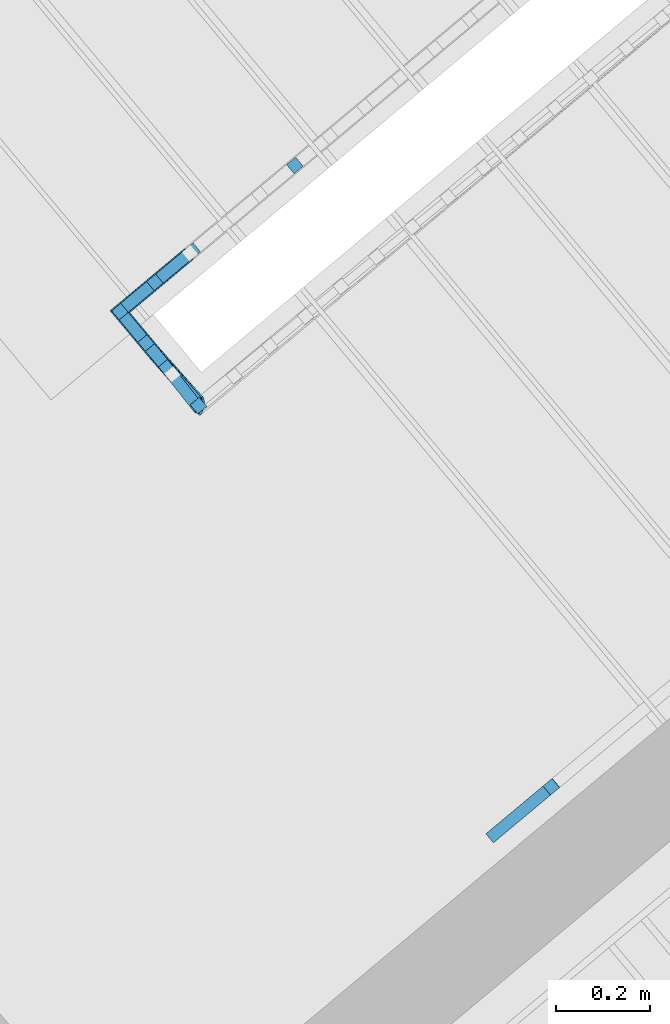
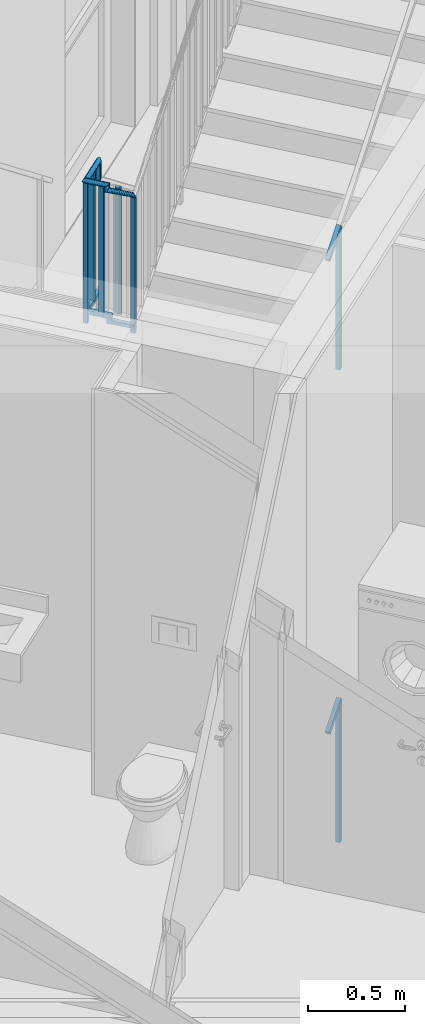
# One storey, part 41 of 53: 15 building element parts, 3 elements without a shape of their own.
"""IFC4 building model written with IfcOpenShell, lengths in metres."""

from ifc_helpers import new_model, entity, si_unit, converted_unit, derived_unit, direction, frame, origin_with_axes, place, context, subcontext, project, spatial, polygons, material, type_object, element, aggregate, save


model = new_model("IFC4")

# Units and contexts
model_context = context("Model", 3, precision=1e-05, world=origin_with_axes(), true_north=direction((0.0, 1.0)))
body_context = subcontext(model_context, "Body", "Model", "MODEL_VIEW")
ifc_project = project(units=[si_unit("LENGTHUNIT", "METRE"), si_unit("AREAUNIT", "SQUARE_METRE"), si_unit("VOLUMEUNIT", "CUBIC_METRE"), converted_unit("PLANEANGLEUNIT", "DEGREE", entity("IfcPlaneAngleMeasure", 0.0174532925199), si_unit("PLANEANGLEUNIT", "RADIAN"), dimensions=[0, 0, 0, 0, 0, 0, 0]), converted_unit("TIMEUNIT", "Year", entity("IfcTimeMeasure", 31556926.0), si_unit("TIMEUNIT", "SECOND"), dimensions=[0, 0, 1, 0, 0, 0, 0]), si_unit("MASSUNIT", "GRAM", prefix="KILO"), si_unit("THERMODYNAMICTEMPERATUREUNIT", "DEGREE_CELSIUS"), si_unit("LUMINOUSINTENSITYUNIT", "LUMEN"), si_unit("ENERGYUNIT", "JOULE", prefix="MEGA"), derived_unit("THERMALCONDUCTANCEUNIT", [(si_unit("POWERUNIT", "WATT"), 1), (si_unit("LENGTHUNIT", "METRE"), -1), (si_unit("THERMODYNAMICTEMPERATUREUNIT", "KELVIN"), -1)]), derived_unit("SPECIFICHEATCAPACITYUNIT", [(si_unit("ENERGYUNIT", "JOULE"), 1), (si_unit("MASSUNIT", "GRAM", prefix="KILO"), -1), (si_unit("THERMODYNAMICTEMPERATUREUNIT", "KELVIN"), -1)]), derived_unit("MASSDENSITYUNIT", [(si_unit("MASSUNIT", "GRAM", prefix="KILO"), 1), (si_unit("VOLUMEUNIT", "CUBIC_METRE"), -1)])], contexts=[model_context])

# Site, building, storey, space
site_placement = place(None, frame((-0.00153261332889, -0.00661245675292, 0.0), z_axis=(0.0, 0.0, 1.0), x_axis=(1.0, 0.0, 0.0)))
site = spatial("IfcSite", under=ifc_project, at=site_placement, Name="Gelände", CompositionType="ELEMENT")
building_placement = place(site_placement, origin_with_axes())
building = spatial("IfcBuilding", under=site, at=building_placement, Name="Gebäude", CompositionType="ELEMENT")
storey_placement = place(building_placement, frame((0.0, 0.0, 2.74), z_axis=(0.0, 0.0, 1.0), x_axis=(1.0, 0.0, 0.0)))
storey = spatial("IfcBuildingStorey", under=building, at=storey_placement, Name="OG1", CompositionType="ELEMENT", Elevation=2.74)
space_1_placement = place(storey_placement, frame((0.186433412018, 25.8823467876, 0.22), z_axis=(0.0, 0.0, 1.0), x_axis=(-0.767365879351, -0.641209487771, 0.0)))
space_1 = spatial("IfcSpace", under=storey, at=space_1_placement, CompositionType="ELEMENT", PredefinedType="NOTDEFINED")

# Railing, building element parts
railing_type = type_object("IfcRailingType", Name="Geländerart", PredefinedType="NOTDEFINED")
railing_1_placement = place(space_1_placement, frame((4.02646190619, 2.55537097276, -1.35941176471), z_axis=(0.0, 0.0, 1.0), x_axis=(-0.767365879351, 0.641209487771, 0.0)))
railing_1 = element("IfcRailing", 1, at=railing_1_placement, inside=space_1, type_object=railing_type, Name="Geländer - 002", PredefinedType="NOTDEFINED")
ifc_material = material(Name="BEKLEIDUNG")
building_element_part_1_placement = place(railing_1_placement, origin_with_axes())
building_element_part_1 = element("IfcBuildingElementPart", 2, at=building_element_part_1_placement, material=ifc_material, Name="BEKLEIDUNG", PredefinedType="NOTDEFINED", context=body_context, shape_type="Tessellation", body=[
    polygons([(-0.0144532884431, 0.0367913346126, 0.0), (-0.0304835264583, 0.0559754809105, 0.0), (-0.0304835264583, 0.0559754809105, 0.887694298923), (-0.0144532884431, 0.0367913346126, 0.887694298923), (-0.033637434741, 0.0207610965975, 0.0), (-0.0496676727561, 0.0399452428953, 0.0), (-0.0496676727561, 0.0399452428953, 0.872305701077), (-0.033637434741, 0.0207610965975, 0.872305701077)], [[[1, 2, 3, 4]], [[1, 5, 6, 2]], [[2, 6, 7, 3]], [[4, 3, 7, 8]], [[5, 1, 4, 8]], [[6, 5, 8, 7]]], closed=True),
])
building_element_part_2_placement = place(railing_1_placement, origin_with_axes())
building_element_part_2 = element("IfcBuildingElementPart", 3, at=building_element_part_2_placement, material=ifc_material, Name="BEKLEIDUNG", PredefinedType="NOTDEFINED", context=body_context, shape_type="Tessellation", body=[
    polygons([(-0.0400755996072, 0.0479603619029, 0.9), (-0.0300193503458, 0.0563633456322, 0.878710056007), (-0.160716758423, -0.0528471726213, 0.773870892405), (-0.170773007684, -0.0612501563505, 0.795160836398), (-0.024045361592, 0.0287762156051, 0.9), (-0.0139891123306, 0.0371791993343, 0.878710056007), (-0.144686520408, -0.0720313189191, 0.773870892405), (-0.154742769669, -0.0804343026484, 0.795160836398)], [[[1, 2, 3, 4]], [[1, 5, 6, 2]], [[2, 6, 7, 3]], [[4, 3, 7, 8]], [[5, 1, 4, 8]], [[6, 5, 8, 7]]], closed=True),
])
aggregate(railing_1, [building_element_part_1, building_element_part_2])

# Space
space_2_placement = place(storey_placement, frame((0.280300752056, 22.6307267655, 0.22), z_axis=(0.0, 0.0, 1.0), x_axis=(-0.641244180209, 0.767336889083, 0.0)))
space_2 = spatial("IfcSpace", under=storey, at=space_2_placement, CompositionType="ELEMENT", PredefinedType="NOTDEFINED")

# Railing, building element parts
railing_2_placement = place(space_2_placement, frame((1.35982515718, -0.251690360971, -0.17), z_axis=(0.0, 0.0, 1.0), x_axis=(-0.641244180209, -0.767336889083, 0.0)))
railing_2 = element("IfcRailing", 4, at=railing_2_placement, inside=space_2, type_object=railing_type, Name="Geländer - 001", PredefinedType="NOTDEFINED")
building_element_part_3_placement = place(railing_2_placement, origin_with_axes())
building_element_part_3 = element("IfcBuildingElementPart", 5, at=building_element_part_3_placement, material=ifc_material, Name="BEKLEIDUNG", PredefinedType="NOTDEFINED", context=body_context, shape_type="Tessellation", body=[
    polygons([(-1.83073465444, -1.44815547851, 1.77058823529), (-1.81470539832, -1.46734044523, 1.77058823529), (-1.81470539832, -1.46734044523, 2.65058823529), (-1.83073465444, -1.44815547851, 2.65058823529), (-1.81154968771, -1.43212622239, 1.77058823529), (-1.79552043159, -1.45131118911, 1.77058823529), (-1.79552043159, -1.45131118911, 2.65058823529), (-1.81154968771, -1.43212622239, 2.65058823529)], [[[1, 2, 3, 4]], [[1, 5, 6, 2]], [[2, 6, 7, 3]], [[4, 3, 7, 8]], [[5, 1, 4, 8]], [[6, 5, 8, 7]]], closed=True),
])
building_element_part_4_placement = place(railing_2_placement, origin_with_axes())
building_element_part_4 = element("IfcBuildingElementPart", 6, at=building_element_part_4_placement, material=ifc_material, Name="BEKLEIDUNG", PredefinedType="NOTDEFINED", context=body_context, shape_type="Tessellation", body=[
    polygons([(-1.65806995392, -1.30389217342, 1.7297425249), (-1.67725492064, -1.31992142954, 1.71753377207), (-1.67725492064, -1.31992142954, 1.82808823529), (-1.83073514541, -1.44815588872, 1.82808823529), (-1.83073514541, -1.44815588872, 1.85308823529), (-1.65806995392, -1.30389217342, 1.85308823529), (-1.6420406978, -1.32307714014, 1.7297425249), (-1.66122566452, -1.33910639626, 1.71753377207), (-1.66122566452, -1.33910639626, 1.82808823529), (-1.79551994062, -1.4513107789, 1.82808823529), (-1.79551994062, -1.4513107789, 1.85308823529), (-1.6420406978, -1.32307714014, 1.85308823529)], [[[1, 2, 3, 4, 5, 6]], [[1, 7, 8, 2]], [[2, 8, 9, 3]], [[3, 9, 10, 4]], [[5, 4, 10, 11]], [[12, 6, 5, 11]], [[7, 1, 6, 12]], [[8, 7, 12, 11, 10, 9]]], closed=True),
])
building_element_part_5_placement = place(railing_2_placement, origin_with_axes())
building_element_part_5 = element("IfcBuildingElementPart", 7, at=building_element_part_5_placement, material=ifc_material, Name="BEKLEIDUNG", PredefinedType="NOTDEFINED", context=body_context, shape_type="Tessellation", body=[
    polygons([(-1.66154123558, -1.34262781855, 2.54631289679), (-1.65968848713, -1.34078287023, 2.5475849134), (-1.65968848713, -1.34078287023, 2.65819295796), (-1.66154123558, -1.34262781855, 2.65558823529), (-1.66368620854, -1.34412301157, 2.54504088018), (-1.66605823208, -1.3452230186, 2.54380751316), (-1.66858523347, -1.34589441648, 2.54265027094), (-1.67119043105, -1.34611680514, 2.54160431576), (-1.67379466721, -1.3458834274, 2.54070142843), (-1.67631881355, -1.34520137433, 2.53996904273), (-1.67868617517, -1.34409136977, 2.53942941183), (-1.68082482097, -1.34258714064, 2.53909893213), (-1.68266976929, -1.34073439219, 2.53898764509), (-1.68416496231, -1.33858941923, 2.53909893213), (-1.68526496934, -1.33621739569, 2.53942941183), (-1.68593636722, -1.3336903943, 2.53996904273), (-1.68615875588, -1.33108519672, 2.54070142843), (-1.68592537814, -1.32848096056, 2.54160431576), (-1.68524332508, -1.32595681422, 2.54265027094), (-1.68413332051, -1.3235894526, 2.54380751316), (-1.68262909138, -1.3214508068, 2.54504088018), (-1.68077634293, -1.31960585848, 2.54631289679), (-1.67863136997, -1.31811066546, 2.5475849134), (-1.67625934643, -1.31701065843, 2.54881828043), (-1.67373234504, -1.31633926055, 2.54997552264), (-1.67112714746, -1.31611687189, 2.55102147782), (-1.6685229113, -1.31635024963, 2.55192436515), (-1.66599876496, -1.31703230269, 2.55265675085), (-1.66363140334, -1.31814230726, 2.55319638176), (-1.66149275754, -1.31964653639, 2.55352686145), (-1.65964780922, -1.32149928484, 2.55363814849), (-1.6581526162, -1.3236442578, 2.55352686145), (-1.65705260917, -1.32601628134, 2.55319638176), (-1.65638121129, -1.32854328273, 2.55265675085), (-1.65615882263, -1.33114848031, 2.55192436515), (-1.65639220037, -1.33375271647, 2.55102147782), (-1.65707425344, -1.33627686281, 2.54997552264), (-1.658184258, -1.33864422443, 2.54881828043), (-1.658184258, -1.33864422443, 2.66071853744), (-1.792319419, -1.45159751, 2.65819295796), (-1.79199842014, -1.45162626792, 2.65558823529), (-1.66368620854, -1.34412301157, 2.65298351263), (-1.66605823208, -1.3452230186, 2.65045793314), (-1.66858523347, -1.34589441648, 2.64808823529), (-1.67119043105, -1.34611680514, 2.64594642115), (-1.67379466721, -1.3458834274, 2.64409756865), (-1.67631881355, -1.34520137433, 2.64259785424), (-1.67868617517, -1.34409136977, 2.64149284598), (-1.68082482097, -1.34258714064, 2.640816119), (-1.68266976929, -1.34073439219, 2.64058823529), (-1.68416496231, -1.33858941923, 2.640816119), (-1.68526496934, -1.33621739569, 2.64149284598), (-1.68593636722, -1.3336903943, 2.64259785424), (-1.68615875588, -1.33108519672, 2.64409756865), (-1.68592537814, -1.32848096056, 2.64594642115), (-1.68524332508, -1.32595681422, 2.64808823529), (-1.68413332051, -1.3235894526, 2.65045793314), (-1.68262909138, -1.3214508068, 2.65298351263), (-1.68077634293, -1.31960585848, 2.65558823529), (-1.67863136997, -1.31811066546, 2.65819295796), (-1.67625934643, -1.31701065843, 2.66071853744), (-1.67373234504, -1.31633926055, 2.66308823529), (-1.67112714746, -1.31611687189, 2.66523004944), (-1.6685229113, -1.31635024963, 2.66707890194), (-1.66599876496, -1.31703230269, 2.66857861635), (-1.66363140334, -1.31814230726, 2.66968362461), (-1.66149275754, -1.31964653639, 2.67036035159), (-1.65964780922, -1.32149928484, 2.67058823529), (-1.6581526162, -1.3236442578, 2.67036035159), (-1.65705260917, -1.32601628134, 2.66968362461), (-1.65638121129, -1.32854328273, 2.66857861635), (-1.65615882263, -1.33114848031, 2.66707890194), (-1.65639220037, -1.33375271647, 2.66523004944), (-1.65707425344, -1.33627686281, 2.66308823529), (-1.79327266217, -1.45151211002, 2.66071853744), (-1.79482918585, -1.45137266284, 2.66308823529), (-1.79694169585, -1.45118340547, 2.66523004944), (-1.79954600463, -1.4509500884, 2.66707890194), (-1.80256298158, -1.45067980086, 2.66857861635), (-1.80590095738, -1.45038075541, 2.66968362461), (-1.80945850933, -1.45006203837, 2.67036035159), (-1.81312754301, -1.44973333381, 2.67058823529), (-1.8167965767, -1.44940462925, 2.67036035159), (-1.82035412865, -1.44908591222, 2.66968362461), (-1.82369210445, -1.44878686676, 2.66857861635), (-1.8267090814, -1.44851657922, 2.66707890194), (-1.82931339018, -1.44828326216, 2.66523004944), (-1.83142590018, -1.44809400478, 2.66308823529), (-1.83298242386, -1.4479545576, 2.66071853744), (-1.83393566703, -1.44786915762, 2.65819295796), (-1.83425666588, -1.4478403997, 2.65558823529), (-1.83393566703, -1.44786915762, 2.65298351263), (-1.83298242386, -1.4479545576, 2.65045793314), (-1.83142590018, -1.44809400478, 2.64808823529), (-1.82931339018, -1.44828326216, 2.64594642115), (-1.8267090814, -1.44851657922, 2.64409756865), (-1.82369210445, -1.44878686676, 2.64259785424), (-1.82035412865, -1.44908591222, 2.64149284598), (-1.8167965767, -1.44940462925, 2.640816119), (-1.81312754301, -1.44973333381, 2.64058823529), (-1.80945850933, -1.45006203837, 2.640816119), (-1.80590095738, -1.45038075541, 2.64149284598), (-1.80256298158, -1.45067980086, 2.64259785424), (-1.79954600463, -1.4509500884, 2.64409756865), (-1.79694169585, -1.45118340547, 2.64594642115), (-1.79482918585, -1.45137266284, 2.64808823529), (-1.79327266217, -1.45151211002, 2.65045793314), (-1.792319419, -1.45159751, 2.65298351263)], [[[1, 2, 3, 4]], [[1, 5, 6, 7, 8, 9, 10, 11, 12, 13, 14, 15, 16, 17, 18, 19, 20, 21, 22, 23, 24, 25, 26, 27, 28, 29, 30, 31, 32, 33, 34, 35, 36, 37, 38, 2]], [[2, 38, 39, 3]], [[4, 3, 40, 41]], [[5, 1, 4, 42]], [[6, 5, 42, 43]], [[7, 6, 43, 44]], [[8, 7, 44, 45]], [[9, 8, 45, 46]], [[10, 9, 46, 47]], [[11, 10, 47, 48]], [[12, 11, 48, 49]], [[13, 12, 49, 50]], [[14, 13, 50, 51]], [[15, 14, 51, 52]], [[16, 15, 52, 53]], [[17, 16, 53, 54]], [[18, 17, 54, 55]], [[19, 18, 55, 56]], [[20, 19, 56, 57]], [[21, 20, 57, 58]], [[22, 21, 58, 59]], [[23, 22, 59, 60]], [[24, 23, 60, 61]], [[25, 24, 61, 62]], [[26, 25, 62, 63]], [[27, 26, 63, 64]], [[28, 27, 64, 65]], [[29, 28, 65, 66]], [[30, 29, 66, 67]], [[31, 30, 67, 68]], [[32, 31, 68, 69]], [[33, 32, 69, 70]], [[34, 33, 70, 71]], [[35, 34, 71, 72]], [[36, 35, 72, 73]], [[37, 36, 73, 74]], [[38, 37, 74, 39]], [[3, 39, 75, 40]], [[41, 40, 75, 76, 77, 78, 79, 80, 81, 82, 83, 84, 85, 86, 87, 88, 89, 90, 91, 92, 93, 94, 95, 96, 97, 98, 99, 100, 101, 102, 103, 104, 105, 106, 107, 108]], [[42, 4, 41, 108]], [[43, 42, 108, 107]], [[44, 43, 107, 106]], [[45, 44, 106, 105]], [[46, 45, 105, 104]], [[47, 46, 104, 103]], [[48, 47, 103, 102]], [[49, 48, 102, 101]], [[50, 49, 101, 100]], [[51, 50, 100, 99]], [[52, 51, 99, 98]], [[53, 52, 98, 97]], [[54, 53, 97, 96]], [[55, 54, 96, 95]], [[56, 55, 95, 94]], [[57, 56, 94, 93]], [[58, 57, 93, 92]], [[59, 58, 92, 91]], [[60, 59, 91, 90]], [[61, 60, 90, 89]], [[62, 61, 89, 88]], [[63, 62, 88, 87]], [[64, 63, 87, 86]], [[65, 64, 86, 85]], [[66, 65, 85, 84]], [[67, 66, 84, 83]], [[68, 67, 83, 82]], [[69, 68, 82, 81]], [[70, 69, 81, 80]], [[71, 70, 80, 79]], [[72, 71, 79, 78]], [[73, 72, 78, 77]], [[74, 73, 77, 76]], [[39, 74, 76, 75]]], closed=True),
])
building_element_part_6_placement = place(railing_2_placement, origin_with_axes())
building_element_part_6 = element("IfcBuildingElementPart", 8, at=building_element_part_6_placement, material=ifc_material, Name="BEKLEIDUNG", PredefinedType="NOTDEFINED", context=body_context, shape_type="Tessellation", body=[
    polygons([(-1.64801867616, -1.66682135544, 1.77058823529), (-1.62883452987, -1.65079111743, 1.77058823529), (-1.62883452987, -1.65079111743, 2.61989887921), (-1.64801867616, -1.66682135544, 2.61989887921), (-1.66404891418, -1.64763720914, 1.77058823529), (-1.64486476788, -1.63160697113, 1.77058823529), (-1.64486476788, -1.63160697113, 2.61989887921), (-1.66404891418, -1.64763720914, 2.61989887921)], [[[1, 2, 3, 4]], [[1, 5, 6, 2]], [[2, 6, 7, 3]], [[4, 3, 7, 8]], [[5, 1, 4, 8]], [[6, 5, 8, 7]]], closed=True),
])
building_element_part_7_placement = place(railing_2_placement, origin_with_axes())
building_element_part_7 = element("IfcBuildingElementPart", 9, at=building_element_part_7_placement, material=ifc_material, Name="BEKLEIDUNG", PredefinedType="NOTDEFINED", context=body_context, shape_type="Tessellation", body=[
    polygons([(-1.73136158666, -1.5670809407, 1.85308823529), (-1.74739182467, -1.5478967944, 1.82808823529), (-1.74739182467, -1.5478967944, 1.79739887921), (-1.73136158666, -1.5670809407, 1.82239887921), (-1.71217744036, -1.55105070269, 1.85308823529), (-1.72820767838, -1.53186655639, 1.82808823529), (-1.72820767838, -1.53186655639, 1.79739887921), (-1.64445279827, -1.66621433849, 1.79779595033), (-1.71217744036, -1.55105070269, 1.82239887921), (-1.63893066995, -1.63383411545, 1.79779595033), (-1.6539527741, -1.66459421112, 1.82200180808), (-1.64843064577, -1.63221398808, 1.82200180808)], [[[1, 2, 3, 4]], [[1, 5, 6, 2]], [[2, 6, 7, 3]], [[4, 3, 8]], [[5, 1, 4, 9]], [[6, 5, 9, 7]], [[3, 7, 10]], [[3, 10, 8]], [[4, 8, 11]], [[9, 4, 11]], [[7, 9, 12]], [[7, 12, 10]], [[11, 8, 10, 12]], [[9, 11, 12]]], closed=True),
])
building_element_part_8_placement = place(railing_2_placement, origin_with_axes())
building_element_part_8 = element("IfcBuildingElementPart", 10, at=building_element_part_8_placement, material=ifc_material, Name="BEKLEIDUNG", PredefinedType="NOTDEFINED", context=body_context, shape_type="Tessellation", body=[
    polygons([(-1.72789228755, -1.52834511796, 2.65558823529), (-1.72639698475, -1.53049001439, 2.65819295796), (-1.72639698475, -1.53049001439, 2.62750360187), (-1.72789228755, -1.52834511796, 2.62489887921), (-1.72973733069, -1.52649246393, 2.65298351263), (-1.73187605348, -1.52498834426, 2.65045793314), (-1.7342434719, -1.52387846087, 2.64808823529), (-1.73676765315, -1.52319653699, 2.64594642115), (-1.73937190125, -1.52296329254, 2.64409756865), (-1.74197708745, -1.52318581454, 2.64259785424), (-1.74450405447, -1.52385734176, 2.64149284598), (-1.74687602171, -1.52495747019, 2.640816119), (-1.74902091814, -1.52645277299, 2.64058823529), (-1.75087357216, -1.52829781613, 2.640816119), (-1.75237769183, -1.53043653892, 2.64149284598), (-1.75348757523, -1.53280395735, 2.64259785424), (-1.7541694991, -1.53532813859, 2.64409756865), (-1.75440274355, -1.53793238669, 2.64594642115), (-1.75418022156, -1.54053757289, 2.64808823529), (-1.75350869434, -1.54306453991, 2.65045793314), (-1.7524085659, -1.54543650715, 2.65298351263), (-1.75091326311, -1.54758140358, 2.65558823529), (-1.74906821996, -1.5494340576, 2.65819295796), (-1.74692949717, -1.55093817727, 2.66071853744), (-1.74456207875, -1.55204806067, 2.66308823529), (-1.7420378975, -1.55272998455, 2.66523004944), (-1.7394336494, -1.55296322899, 2.66707890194), (-1.73682846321, -1.552740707, 2.66857861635), (-1.73430149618, -1.55206917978, 2.66968362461), (-1.73192952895, -1.55096905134, 2.67036035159), (-1.72978463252, -1.54947374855, 2.67058823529), (-1.72793197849, -1.5476287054, 2.67036035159), (-1.72642785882, -1.54548998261, 2.66968362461), (-1.72531797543, -1.54312256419, 2.66857861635), (-1.72463605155, -1.54059838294, 2.66707890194), (-1.7244028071, -1.53799413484, 2.66523004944), (-1.7246253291, -1.53538894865, 2.66308823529), (-1.72529685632, -1.53286198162, 2.66071853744), (-1.72529685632, -1.53286198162, 2.63002918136), (-1.63846858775, -1.63088446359, 2.62789734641), (-1.72973733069, -1.52649246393, 2.62229415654), (-1.73187605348, -1.52498834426, 2.61976857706), (-1.7342434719, -1.52387846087, 2.61739887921), (-1.73676765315, -1.52319653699, 2.61525706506), (-1.73937190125, -1.52296329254, 2.61340821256), (-1.74197708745, -1.52318581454, 2.61190849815), (-1.74450405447, -1.52385734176, 2.6108034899), (-1.74687602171, -1.52495747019, 2.61012676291), (-1.74902091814, -1.52645277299, 2.60989887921), (-1.75087357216, -1.52829781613, 2.61012676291), (-1.75237769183, -1.53043653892, 2.6108034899), (-1.75348757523, -1.53280395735, 2.61190849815), (-1.7541694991, -1.53532813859, 2.61340821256), (-1.75440274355, -1.53793238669, 2.61525706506), (-1.75418022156, -1.54053757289, 2.61739887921), (-1.75350869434, -1.54306453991, 2.61976857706), (-1.7524085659, -1.54543650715, 2.62229415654), (-1.75091326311, -1.54758140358, 2.62489887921), (-1.74906821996, -1.5494340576, 2.62750360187), (-1.74692949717, -1.55093817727, 2.63002918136), (-1.74456207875, -1.55204806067, 2.63239887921), (-1.7420378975, -1.55272998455, 2.63454069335), (-1.7394336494, -1.55296322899, 2.63638954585), (-1.73682846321, -1.552740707, 2.63788926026), (-1.73430149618, -1.55206917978, 2.63899426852), (-1.73192952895, -1.55096905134, 2.6396709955), (-1.72978463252, -1.54947374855, 2.63989887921), (-1.72793197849, -1.5476287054, 2.6396709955), (-1.72642785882, -1.54548998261, 2.63899426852), (-1.72531797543, -1.54312256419, 2.63788926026), (-1.72463605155, -1.54059838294, 2.63638954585), (-1.7244028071, -1.53799413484, 2.63454069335), (-1.7246253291, -1.53538894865, 2.63239887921), (-1.63957778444, -1.631597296, 2.63034269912), (-1.63742845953, -1.63075810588, 2.62537536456), (-1.63648900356, -1.63122206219, 2.62285338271), (-1.63567876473, -1.63226223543, 2.62040803), (-1.63502236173, -1.63384702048, 2.61811360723), (-1.63453973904, -1.63592826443, 2.61603982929), (-1.63424556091, -1.63844272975, 2.61424970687), (-1.63414876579, -1.64131401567, 2.61279763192), (-1.63425229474, -1.64445487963, 2.61172772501), (-1.63455300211, -1.64776988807, 2.61107249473), (-1.63504175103, -1.65115831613, 2.61085184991), (-1.63570369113, -1.65451720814, 2.61107249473), (-1.63651870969, -1.65774450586, 2.61172772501), (-1.63746204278, -1.66074214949, 2.61279763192), (-1.63850502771, -1.66341905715, 2.61424970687), (-1.63961597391, -1.66569389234, 2.61603982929), (-1.64076112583, -1.66749753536, 2.61811360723), (-1.64190568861, -1.66877518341, 2.62040803), (-1.64301488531, -1.66948801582, 2.62285338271), (-1.64405501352, -1.66961437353, 2.62537536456), (-1.64499446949, -1.66915041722, 2.62789734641), (-1.64580470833, -1.66811024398, 2.63034269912), (-1.64646111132, -1.66652545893, 2.63263712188), (-1.64694373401, -1.66444421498, 2.63471089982), (-1.64723791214, -1.66192974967, 2.63650102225), (-1.64733470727, -1.65905846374, 2.6379530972), (-1.64723117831, -1.65591759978, 2.6390230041), (-1.64693047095, -1.65260259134, 2.63967823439), (-1.64644172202, -1.64921416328, 2.63989887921), (-1.64577978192, -1.64585527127, 2.63967823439), (-1.64496476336, -1.64262797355, 2.6390230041), (-1.64402143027, -1.63963032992, 2.6379530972), (-1.64297844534, -1.63695342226, 2.63650102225), (-1.64186749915, -1.63467858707, 2.63471089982), (-1.64072234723, -1.63287494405, 2.63263712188)], [[[1, 2, 3, 4]], [[1, 5, 6, 7, 8, 9, 10, 11, 12, 13, 14, 15, 16, 17, 18, 19, 20, 21, 22, 23, 24, 25, 26, 27, 28, 29, 30, 31, 32, 33, 34, 35, 36, 37, 38, 2]], [[2, 38, 39, 3]], [[4, 3, 40]], [[5, 1, 4, 41]], [[6, 5, 41, 42]], [[7, 6, 42, 43]], [[8, 7, 43, 44]], [[9, 8, 44, 45]], [[10, 9, 45, 46]], [[11, 10, 46, 47]], [[12, 11, 47, 48]], [[13, 12, 48, 49]], [[14, 13, 49, 50]], [[15, 14, 50, 51]], [[16, 15, 51, 52]], [[17, 16, 52, 53]], [[18, 17, 53, 54]], [[19, 18, 54, 55]], [[20, 19, 55, 56]], [[21, 20, 56, 57]], [[22, 21, 57, 58]], [[23, 22, 58, 59]], [[24, 23, 59, 60]], [[25, 24, 60, 61]], [[26, 25, 61, 62]], [[27, 26, 62, 63]], [[28, 27, 63, 64]], [[29, 28, 64, 65]], [[30, 29, 65, 66]], [[31, 30, 66, 67]], [[32, 31, 67, 68]], [[33, 32, 68, 69]], [[34, 33, 69, 70]], [[35, 34, 70, 71]], [[36, 35, 71, 72]], [[37, 36, 72, 73]], [[38, 37, 73, 39]], [[3, 39, 74]], [[3, 74, 40]], [[4, 40, 75]], [[41, 4, 75]], [[42, 41, 76]], [[43, 42, 77]], [[44, 43, 78]], [[45, 44, 79]], [[46, 45, 80]], [[47, 46, 81]], [[48, 47, 82]], [[49, 48, 83]], [[50, 49, 84]], [[51, 50, 85]], [[52, 51, 86]], [[53, 52, 87]], [[54, 53, 88]], [[55, 54, 89]], [[56, 55, 90]], [[57, 56, 91]], [[58, 57, 92]], [[59, 58, 93]], [[60, 59, 94]], [[61, 60, 95]], [[62, 61, 96]], [[63, 62, 97]], [[64, 63, 98]], [[65, 64, 99]], [[66, 65, 100]], [[67, 66, 101]], [[68, 67, 102]], [[69, 68, 103]], [[70, 69, 104]], [[71, 70, 105]], [[72, 71, 106]], [[73, 72, 107]], [[39, 73, 108]], [[39, 108, 74]], [[75, 40, 74, 108, 107, 106, 105, 104, 103, 102, 101, 100, 99, 98, 97, 96, 95, 94, 93, 92, 91, 90, 89, 88, 87, 86, 85, 84, 83, 82, 81, 80, 79, 78, 77, 76]], [[41, 75, 76]], [[42, 76, 77]], [[43, 77, 78]], [[44, 78, 79]], [[45, 79, 80]], [[46, 80, 81]], [[47, 81, 82]], [[48, 82, 83]], [[49, 83, 84]], [[50, 84, 85]], [[51, 85, 86]], [[52, 86, 87]], [[53, 87, 88]], [[54, 88, 89]], [[55, 89, 90]], [[56, 90, 91]], [[57, 91, 92]], [[58, 92, 93]], [[59, 93, 94]], [[60, 94, 95]], [[61, 95, 96]], [[62, 96, 97]], [[63, 97, 98]], [[64, 98, 99]], [[65, 99, 100]], [[66, 100, 101]], [[67, 101, 102]], [[68, 102, 103]], [[69, 103, 104]], [[70, 104, 105]], [[71, 105, 106]], [[72, 106, 107]], [[73, 107, 108]]], closed=True),
])
building_element_part_9_placement = place(railing_2_placement, origin_with_axes())
building_element_part_9 = element("IfcBuildingElementPart", 11, at=building_element_part_9_placement, material=ifc_material, Name="BEKLEIDUNG", PredefinedType="NOTDEFINED", context=body_context, shape_type="Tessellation", body=[
    polygons([(-1.45967860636, -1.1381339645, 1.51232562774), (-1.44364935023, -1.15731893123, 1.51232562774), (-1.44364935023, -1.15731893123, 2.31982562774), (-1.45967860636, -1.1381339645, 2.31982562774), (-1.44049363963, -1.12210470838, 1.49283361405), (-1.42446438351, -1.1412896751, 1.49283361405), (-1.42446438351, -1.1412896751, 2.30033361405), (-1.44049363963, -1.12210470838, 2.30033361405)], [[[1, 2, 3, 4]], [[1, 5, 6, 2]], [[2, 6, 7, 3]], [[4, 3, 7, 8]], [[5, 1, 4, 8]], [[6, 5, 8, 7]]], closed=True),
])
building_element_part_10_placement = place(railing_2_placement, origin_with_axes())
building_element_part_10 = element("IfcBuildingElementPart", 12, at=building_element_part_10_placement, material=ifc_material, Name="BEKLEIDUNG", PredefinedType="NOTDEFINED", context=body_context, shape_type="Tessellation", body=[
    polygons([(-1.75652344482, -1.38615117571, 1.84058823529), (-1.7404941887, -1.40533614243, 1.84058823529), (-1.7404941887, -1.40533614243, 2.64808823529), (-1.75652344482, -1.38615117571, 2.64808823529), (-1.7373384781, -1.37012191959, 1.84058823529), (-1.72130922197, -1.38930688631, 1.84058823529), (-1.72130922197, -1.38930688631, 2.64808823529), (-1.7373384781, -1.37012191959, 2.64808823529)], [[[1, 2, 3, 4]], [[1, 5, 6, 2]], [[2, 6, 7, 3]], [[4, 3, 7, 8]], [[5, 1, 4, 8]], [[6, 5, 8, 7]]], closed=True),
])
building_element_part_11_placement = place(railing_2_placement, origin_with_axes())
building_element_part_11 = element("IfcBuildingElementPart", 13, at=building_element_part_11_placement, material=ifc_material, Name="BEKLEIDUNG", PredefinedType="NOTDEFINED", context=body_context, shape_type="Tessellation", body=[
    polygons([(-1.79199842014, -1.45162626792, 2.65558823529), (-1.792319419, -1.45159751, 2.65819295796), (-1.72639698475, -1.53049001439, 2.65819295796), (-1.72789228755, -1.52834511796, 2.65558823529), (-1.792319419, -1.45159751, 2.65298351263), (-1.79327266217, -1.45151211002, 2.65045793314), (-1.79482918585, -1.45137266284, 2.64808823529), (-1.79694169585, -1.45118340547, 2.64594642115), (-1.79954600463, -1.4509500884, 2.64409756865), (-1.80256298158, -1.45067980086, 2.64259785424), (-1.80590095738, -1.45038075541, 2.64149284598), (-1.80945850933, -1.45006203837, 2.640816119), (-1.81312754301, -1.44973333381, 2.64058823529), (-1.8167965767, -1.44940462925, 2.640816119), (-1.82035412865, -1.44908591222, 2.64149284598), (-1.82369210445, -1.44878686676, 2.64259785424), (-1.8267090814, -1.44851657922, 2.64409756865), (-1.82931339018, -1.44828326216, 2.64594642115), (-1.83142590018, -1.44809400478, 2.64808823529), (-1.83298242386, -1.4479545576, 2.65045793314), (-1.83393566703, -1.44786915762, 2.65298351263), (-1.83425666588, -1.4478403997, 2.65558823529), (-1.83393566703, -1.44786915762, 2.65819295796), (-1.83298242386, -1.4479545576, 2.66071853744), (-1.83142590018, -1.44809400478, 2.66308823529), (-1.82931339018, -1.44828326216, 2.66523004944), (-1.8267090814, -1.44851657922, 2.66707890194), (-1.82369210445, -1.44878686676, 2.66857861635), (-1.82035412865, -1.44908591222, 2.66968362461), (-1.8167965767, -1.44940462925, 2.67036035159), (-1.81312754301, -1.44973333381, 2.67058823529), (-1.80945850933, -1.45006203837, 2.67036035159), (-1.80590095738, -1.45038075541, 2.66968362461), (-1.80256298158, -1.45067980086, 2.66857861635), (-1.79954600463, -1.4509500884, 2.66707890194), (-1.79694169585, -1.45118340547, 2.66523004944), (-1.79482918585, -1.45137266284, 2.66308823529), (-1.79327266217, -1.45151211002, 2.66071853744), (-1.72529685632, -1.53286198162, 2.66071853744), (-1.7246253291, -1.53538894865, 2.66308823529), (-1.7244028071, -1.53799413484, 2.66523004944), (-1.72463605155, -1.54059838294, 2.66707890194), (-1.72531797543, -1.54312256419, 2.66857861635), (-1.72642785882, -1.54548998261, 2.66968362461), (-1.72793197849, -1.5476287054, 2.67036035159), (-1.72978463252, -1.54947374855, 2.67058823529), (-1.73192952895, -1.55096905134, 2.67036035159), (-1.73430149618, -1.55206917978, 2.66968362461), (-1.73682846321, -1.552740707, 2.66857861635), (-1.7394336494, -1.55296322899, 2.66707890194), (-1.7420378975, -1.55272998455, 2.66523004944), (-1.74456207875, -1.55204806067, 2.66308823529), (-1.74692949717, -1.55093817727, 2.66071853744), (-1.74906821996, -1.5494340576, 2.65819295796), (-1.75091326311, -1.54758140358, 2.65558823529), (-1.7524085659, -1.54543650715, 2.65298351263), (-1.75350869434, -1.54306453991, 2.65045793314), (-1.75418022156, -1.54053757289, 2.64808823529), (-1.75440274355, -1.53793238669, 2.64594642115), (-1.7541694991, -1.53532813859, 2.64409756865), (-1.75348757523, -1.53280395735, 2.64259785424), (-1.75237769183, -1.53043653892, 2.64149284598), (-1.75087357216, -1.52829781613, 2.640816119), (-1.74902091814, -1.52645277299, 2.64058823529), (-1.74687602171, -1.52495747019, 2.640816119), (-1.74450405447, -1.52385734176, 2.64149284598), (-1.74197708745, -1.52318581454, 2.64259785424), (-1.73937190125, -1.52296329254, 2.64409756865), (-1.73676765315, -1.52319653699, 2.64594642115), (-1.7342434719, -1.52387846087, 2.64808823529), (-1.73187605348, -1.52498834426, 2.65045793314), (-1.72973733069, -1.52649246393, 2.65298351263)], [[[1, 2, 3, 4]], [[1, 5, 6, 7, 8, 9, 10, 11, 12, 13, 14, 15, 16, 17, 18, 19, 20, 21, 22, 23, 24, 25, 26, 27, 28, 29, 30, 31, 32, 33, 34, 35, 36, 37, 38, 2]], [[2, 38, 39, 3]], [[4, 3, 39, 40, 41, 42, 43, 44, 45, 46, 47, 48, 49, 50, 51, 52, 53, 54, 55, 56, 57, 58, 59, 60, 61, 62, 63, 64, 65, 66, 67, 68, 69, 70, 71, 72]], [[5, 1, 4, 72]], [[6, 5, 72, 71]], [[7, 6, 71, 70]], [[8, 7, 70, 69]], [[9, 8, 69, 68]], [[10, 9, 68, 67]], [[11, 10, 67, 66]], [[12, 11, 66, 65]], [[13, 12, 65, 64]], [[14, 13, 64, 63]], [[15, 14, 63, 62]], [[16, 15, 62, 61]], [[17, 16, 61, 60]], [[18, 17, 60, 59]], [[19, 18, 59, 58]], [[20, 19, 58, 57]], [[21, 20, 57, 56]], [[22, 21, 56, 55]], [[23, 22, 55, 54]], [[24, 23, 54, 53]], [[25, 24, 53, 52]], [[26, 25, 52, 51]], [[27, 26, 51, 50]], [[28, 27, 50, 49]], [[29, 28, 49, 48]], [[30, 29, 48, 47]], [[31, 30, 47, 46]], [[32, 31, 46, 45]], [[33, 32, 45, 44]], [[34, 33, 44, 43]], [[35, 34, 43, 42]], [[36, 35, 42, 41]], [[37, 36, 41, 40]], [[38, 37, 40, 39]]], closed=True),
])
building_element_part_12_placement = place(railing_2_placement, origin_with_axes())
building_element_part_12 = element("IfcBuildingElementPart", 14, at=building_element_part_12_placement, material=ifc_material, Name="BEKLEIDUNG", PredefinedType="NOTDEFINED", context=body_context, shape_type="Tessellation", body=[
    polygons([(-1.83073514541, -1.44815588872, 1.85308823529), (-1.83073514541, -1.44815588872, 1.82808823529), (-1.74739182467, -1.5478967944, 1.82808823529), (-1.73136158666, -1.5670809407, 1.85308823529), (-1.79551994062, -1.4513107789, 1.85308823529), (-1.79551994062, -1.4513107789, 1.82808823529), (-1.72820767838, -1.53186655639, 1.82808823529), (-1.71217744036, -1.55105070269, 1.85308823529)], [[[1, 2, 3, 4]], [[1, 5, 6, 2]], [[2, 6, 7, 3]], [[4, 3, 7, 8]], [[5, 1, 4, 8]], [[6, 5, 8, 7]]], closed=True),
])
building_element_part_13_placement = place(railing_2_placement, origin_with_axes())
building_element_part_13 = element("IfcBuildingElementPart", 15, at=building_element_part_13_placement, material=ifc_material, Name="BEKLEIDUNG", PredefinedType="NOTDEFINED", context=body_context, shape_type="Tessellation", body=[
    polygons([(-1.75914255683, -1.53383413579, 1.84058823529), (-1.73995841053, -1.51780389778, 1.84058823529), (-1.73995841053, -1.51780389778, 2.64808823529), (-1.75914255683, -1.53383413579, 2.64808823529), (-1.77517279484, -1.51464998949, 1.84058823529), (-1.75598864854, -1.49861975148, 1.84058823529), (-1.75598864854, -1.49861975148, 2.64808823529), (-1.77517279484, -1.51464998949, 2.64808823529)], [[[1, 2, 3, 4]], [[1, 5, 6, 2]], [[2, 6, 7, 3]], [[4, 3, 7, 8]], [[5, 1, 4, 8]], [[6, 5, 8, 7]]], closed=True),
])
aggregate(railing_2, [building_element_part_3, building_element_part_4, building_element_part_5, building_element_part_6, building_element_part_7, building_element_part_8, building_element_part_9, building_element_part_10, building_element_part_11, building_element_part_12, building_element_part_13])

railing_3_placement = place(space_2_placement, frame((9.09464852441e-05, 2.01352288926, 1.60058823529), z_axis=(0.0, 0.0, 1.0), x_axis=(-0.641244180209, -0.767336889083, 0.0)))
railing_3 = element("IfcRailing", 16, at=railing_3_placement, inside=space_2, type_object=railing_type, Name="Geländer - 002", PredefinedType="NOTDEFINED")
building_element_part_14_placement = place(railing_3_placement, origin_with_axes())
building_element_part_14 = element("IfcBuildingElementPart", 17, at=building_element_part_14_placement, material=ifc_material, Name="BEKLEIDUNG", PredefinedType="NOTDEFINED", context=body_context, shape_type="Tessellation", body=[
    polygons([(-0.0144532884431, 0.0367913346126, 0.0), (-0.0304835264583, 0.0559754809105, 0.0), (-0.0304835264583, 0.0559754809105, 0.887694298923), (-0.0144532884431, 0.0367913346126, 0.887694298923), (-0.033637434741, 0.0207610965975, 0.0), (-0.0496676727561, 0.0399452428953, 0.0), (-0.0496676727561, 0.0399452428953, 0.872305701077), (-0.033637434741, 0.0207610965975, 0.872305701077)], [[[1, 2, 3, 4]], [[1, 5, 6, 2]], [[2, 6, 7, 3]], [[4, 3, 7, 8]], [[5, 1, 4, 8]], [[6, 5, 8, 7]]], closed=True),
])
building_element_part_15_placement = place(railing_3_placement, origin_with_axes())
building_element_part_15 = element("IfcBuildingElementPart", 18, at=building_element_part_15_placement, material=ifc_material, Name="BEKLEIDUNG", PredefinedType="NOTDEFINED", context=body_context, shape_type="Tessellation", body=[
    polygons([(-0.0400755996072, 0.0479603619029, 0.9), (-0.0300193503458, 0.0563633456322, 0.878710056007), (-0.160716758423, -0.0528471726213, 0.773870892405), (-0.170773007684, -0.0612501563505, 0.795160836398), (-0.024045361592, 0.0287762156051, 0.9), (-0.0139891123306, 0.0371791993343, 0.878710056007), (-0.144686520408, -0.0720313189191, 0.773870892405), (-0.154742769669, -0.0804343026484, 0.795160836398)], [[[1, 2, 3, 4]], [[1, 5, 6, 2]], [[2, 6, 7, 3]], [[4, 3, 7, 8]], [[5, 1, 4, 8]], [[6, 5, 8, 7]]], closed=True),
])
aggregate(railing_3, [building_element_part_14, building_element_part_15])

save(model, "model.ifc")
